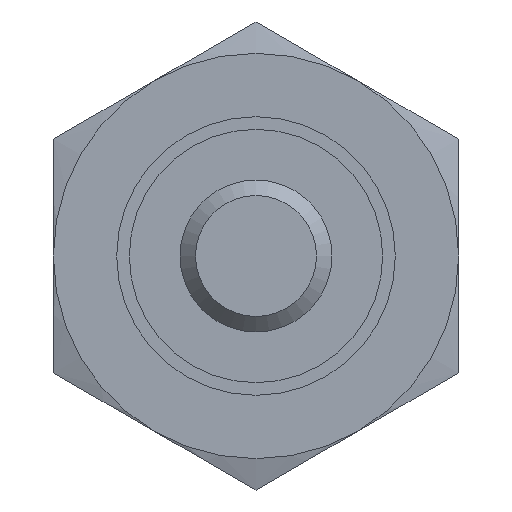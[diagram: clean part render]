
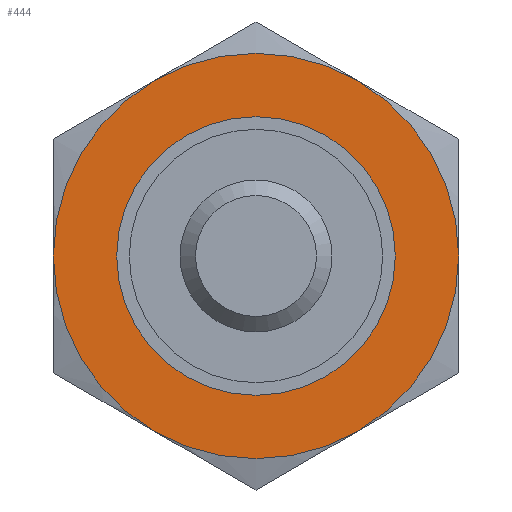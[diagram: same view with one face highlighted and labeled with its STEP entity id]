
A CAD part, front view. The second image highlights one B-rep face of the part: STEP entity #444.
In plain terms, the highlighted planar face has unit normal (0, -1, 0).
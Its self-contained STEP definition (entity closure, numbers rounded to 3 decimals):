
#39=PLANE('',#499);
#54=CIRCLE('',#488,4.);
#55=CIRCLE('',#490,4.);
#56=CIRCLE('',#492,4.);
#57=CIRCLE('',#494,4.);
#58=CIRCLE('',#496,4.);
#59=CIRCLE('',#498,4.);
#60=CIRCLE('',#500,2.75);
#100=ORIENTED_EDGE('',*,*,#216,.F.);
#101=ORIENTED_EDGE('',*,*,#207,.T.);
#102=ORIENTED_EDGE('',*,*,#210,.T.);
#103=ORIENTED_EDGE('',*,*,#213,.T.);
#104=ORIENTED_EDGE('',*,*,#200,.T.);
#105=ORIENTED_EDGE('',*,*,#201,.T.);
#106=ORIENTED_EDGE('',*,*,#204,.T.);
#200=EDGE_CURVE('',#256,#258,#54,.T.);
#201=EDGE_CURVE('',#258,#259,#55,.T.);
#204=EDGE_CURVE('',#259,#261,#56,.T.);
#207=EDGE_CURVE('',#261,#263,#57,.T.);
#210=EDGE_CURVE('',#263,#265,#58,.T.);
#213=EDGE_CURVE('',#265,#256,#59,.T.);
#216=EDGE_CURVE('',#268,#268,#60,.T.);
#256=VERTEX_POINT('',#693);
#258=VERTEX_POINT('',#699);
#259=VERTEX_POINT('',#703);
#261=VERTEX_POINT('',#715);
#263=VERTEX_POINT('',#727);
#265=VERTEX_POINT('',#739);
#268=VERTEX_POINT('',#762);
#326=EDGE_LOOP('',(#100));
#327=EDGE_LOOP('',(#101,#102,#103,#104,#105,#106));
#378=FACE_BOUND('',#326,.T.);
#379=FACE_BOUND('',#327,.T.);
#444=ADVANCED_FACE('',(#378,#379),#39,.F.);
#488=AXIS2_PLACEMENT_3D('',#700,#555,#556);
#490=AXIS2_PLACEMENT_3D('',#702,#559,#560);
#492=AXIS2_PLACEMENT_3D('',#714,#563,#564);
#494=AXIS2_PLACEMENT_3D('',#726,#567,#568);
#496=AXIS2_PLACEMENT_3D('',#738,#571,#572);
#498=AXIS2_PLACEMENT_3D('',#750,#575,#576);
#499=AXIS2_PLACEMENT_3D('',#760,#577,#578);
#500=AXIS2_PLACEMENT_3D('',#761,#579,#580);
#555=DIRECTION('',(0.,-1.,0.));
#556=DIRECTION('',(0.,0.,-1.));
#559=DIRECTION('',(0.,-1.,0.));
#560=DIRECTION('',(0.,0.,-1.));
#563=DIRECTION('',(0.,-1.,0.));
#564=DIRECTION('',(0.,0.,-1.));
#567=DIRECTION('',(0.,-1.,0.));
#568=DIRECTION('',(0.,0.,-1.));
#571=DIRECTION('',(0.,-1.,0.));
#572=DIRECTION('',(0.,0.,-1.));
#575=DIRECTION('',(0.,-1.,0.));
#576=DIRECTION('',(0.,0.,-1.));
#577=DIRECTION('',(0.,1.,0.));
#578=DIRECTION('',(0.,0.,1.));
#579=DIRECTION('',(0.,-1.,0.));
#580=DIRECTION('',(0.,0.,-1.));
#693=CARTESIAN_POINT('',(-2.,1.,3.464));
#699=CARTESIAN_POINT('',(-4.,1.,0.));
#700=CARTESIAN_POINT('',(0.,1.,0.));
#702=CARTESIAN_POINT('',(0.,1.,0.));
#703=CARTESIAN_POINT('',(-2.,1.,-3.464));
#714=CARTESIAN_POINT('',(0.,1.,0.));
#715=CARTESIAN_POINT('',(2.,1.,-3.464));
#726=CARTESIAN_POINT('',(0.,1.,0.));
#727=CARTESIAN_POINT('',(4.,1.,0.));
#738=CARTESIAN_POINT('',(0.,1.,0.));
#739=CARTESIAN_POINT('',(2.,1.,3.464));
#750=CARTESIAN_POINT('',(0.,1.,0.));
#760=CARTESIAN_POINT('',(4.,1.,0.));
#761=CARTESIAN_POINT('',(0.,1.,0.));
#762=CARTESIAN_POINT('',(0.,1.,-2.75));
